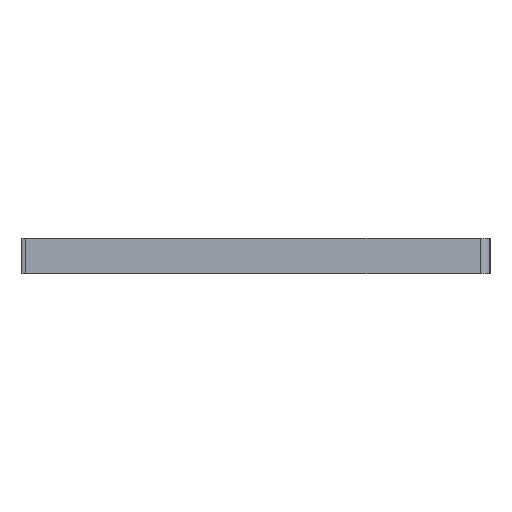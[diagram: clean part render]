
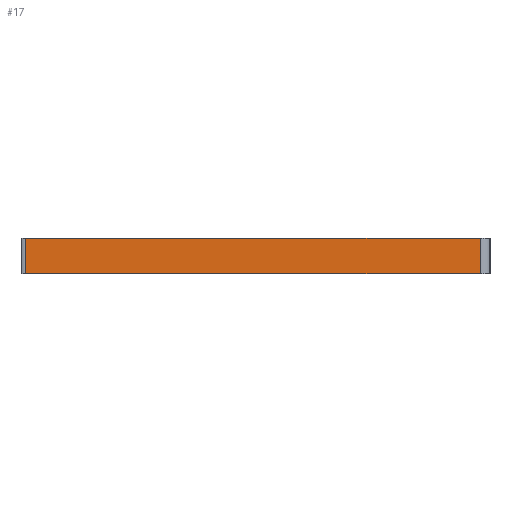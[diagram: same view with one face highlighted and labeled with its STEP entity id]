
A CAD part, left-side view. The second image highlights one B-rep face of the part: STEP entity #17.
In plain terms, the highlighted planar face has unit normal (-1, 0, 0).
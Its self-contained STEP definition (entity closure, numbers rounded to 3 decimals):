
#17 = ADVANCED_FACE('',(#18),#32,.F.);
#18 = FACE_BOUND('',#19,.F.);
#19 = EDGE_LOOP('',(#20,#55,#83,#111));
#20 = ORIENTED_EDGE('',*,*,#21,.F.);
#21 = EDGE_CURVE('',#22,#24,#26,.T.);
#22 = VERTEX_POINT('',#23);
#23 = CARTESIAN_POINT('',(1.,1.75,4.25));
#24 = VERTEX_POINT('',#25);
#25 = CARTESIAN_POINT('',(1.,36.75,4.25));
#26 = SURFACE_CURVE('',#27,(#31,#43),.PCURVE_S1.);
#27 = LINE('',#28,#29);
#28 = CARTESIAN_POINT('',(1.,1.,4.25));
#29 = VECTOR('',#30,1.);
#30 = DIRECTION('',(0.,1.,0.));
#31 = PCURVE('',#32,#37);
#32 = PLANE('',#33);
#33 = AXIS2_PLACEMENT_3D('',#34,#35,#36);
#34 = CARTESIAN_POINT('',(1.,1.,1.55));
#35 = DIRECTION('',(1.,0.,0.));
#36 = DIRECTION('',(0.,0.,1.));
#37 = DEFINITIONAL_REPRESENTATION('',(#38),#42);
#38 = LINE('',#39,#40);
#39 = CARTESIAN_POINT('',(2.7,0.));
#40 = VECTOR('',#41,1.);
#41 = DIRECTION('',(0.,-1.));
#42 = ( GEOMETRIC_REPRESENTATION_CONTEXT(2) 
PARAMETRIC_REPRESENTATION_CONTEXT() REPRESENTATION_CONTEXT('2D SPACE',''
  ) );
#43 = PCURVE('',#44,#49);
#44 = PLANE('',#45);
#45 = AXIS2_PLACEMENT_3D('',#46,#47,#48);
#46 = CARTESIAN_POINT('',(1.,1.,4.25));
#47 = DIRECTION('',(0.,0.,1.));
#48 = DIRECTION('',(1.,0.,0.));
#49 = DEFINITIONAL_REPRESENTATION('',(#50),#54);
#50 = LINE('',#51,#52);
#51 = CARTESIAN_POINT('',(0.,0.));
#52 = VECTOR('',#53,1.);
#53 = DIRECTION('',(0.,1.));
#54 = ( GEOMETRIC_REPRESENTATION_CONTEXT(2) 
PARAMETRIC_REPRESENTATION_CONTEXT() REPRESENTATION_CONTEXT('2D SPACE',''
  ) );
#55 = ORIENTED_EDGE('',*,*,#56,.F.);
#56 = EDGE_CURVE('',#57,#22,#59,.T.);
#57 = VERTEX_POINT('',#58);
#58 = CARTESIAN_POINT('',(1.,1.75,1.55));
#59 = SURFACE_CURVE('',#60,(#64,#71),.PCURVE_S1.);
#60 = LINE('',#61,#62);
#61 = CARTESIAN_POINT('',(1.,1.75,1.55));
#62 = VECTOR('',#63,1.);
#63 = DIRECTION('',(0.,0.,1.));
#64 = PCURVE('',#32,#65);
#65 = DEFINITIONAL_REPRESENTATION('',(#66),#70);
#66 = LINE('',#67,#68);
#67 = CARTESIAN_POINT('',(0.,-0.75));
#68 = VECTOR('',#69,1.);
#69 = DIRECTION('',(1.,0.));
#70 = ( GEOMETRIC_REPRESENTATION_CONTEXT(2) 
PARAMETRIC_REPRESENTATION_CONTEXT() REPRESENTATION_CONTEXT('2D SPACE',''
  ) );
#71 = PCURVE('',#72,#77);
#72 = CYLINDRICAL_SURFACE('',#73,0.75);
#73 = AXIS2_PLACEMENT_3D('',#74,#75,#76);
#74 = CARTESIAN_POINT('',(1.75,1.75,1.55));
#75 = DIRECTION('',(0.,0.,1.));
#76 = DIRECTION('',(-1.,-0.,0.));
#77 = DEFINITIONAL_REPRESENTATION('',(#78),#82);
#78 = LINE('',#79,#80);
#79 = CARTESIAN_POINT('',(0.,0.));
#80 = VECTOR('',#81,1.);
#81 = DIRECTION('',(0.,1.));
#82 = ( GEOMETRIC_REPRESENTATION_CONTEXT(2) 
PARAMETRIC_REPRESENTATION_CONTEXT() REPRESENTATION_CONTEXT('2D SPACE',''
  ) );
#83 = ORIENTED_EDGE('',*,*,#84,.T.);
#84 = EDGE_CURVE('',#57,#85,#87,.T.);
#85 = VERTEX_POINT('',#86);
#86 = CARTESIAN_POINT('',(1.,36.75,1.55));
#87 = SURFACE_CURVE('',#88,(#92,#99),.PCURVE_S1.);
#88 = LINE('',#89,#90);
#89 = CARTESIAN_POINT('',(1.,1.,1.55));
#90 = VECTOR('',#91,1.);
#91 = DIRECTION('',(0.,1.,0.));
#92 = PCURVE('',#32,#93);
#93 = DEFINITIONAL_REPRESENTATION('',(#94),#98);
#94 = LINE('',#95,#96);
#95 = CARTESIAN_POINT('',(0.,0.));
#96 = VECTOR('',#97,1.);
#97 = DIRECTION('',(0.,-1.));
#98 = ( GEOMETRIC_REPRESENTATION_CONTEXT(2) 
PARAMETRIC_REPRESENTATION_CONTEXT() REPRESENTATION_CONTEXT('2D SPACE',''
  ) );
#99 = PCURVE('',#100,#105);
#100 = PLANE('',#101);
#101 = AXIS2_PLACEMENT_3D('',#102,#103,#104);
#102 = CARTESIAN_POINT('',(1.,1.,1.55));
#103 = DIRECTION('',(0.,0.,1.));
#104 = DIRECTION('',(1.,0.,0.));
#105 = DEFINITIONAL_REPRESENTATION('',(#106),#110);
#106 = LINE('',#107,#108);
#107 = CARTESIAN_POINT('',(0.,0.));
#108 = VECTOR('',#109,1.);
#109 = DIRECTION('',(0.,1.));
#110 = ( GEOMETRIC_REPRESENTATION_CONTEXT(2) 
PARAMETRIC_REPRESENTATION_CONTEXT() REPRESENTATION_CONTEXT('2D SPACE',''
  ) );
#111 = ORIENTED_EDGE('',*,*,#112,.T.);
#112 = EDGE_CURVE('',#85,#24,#113,.T.);
#113 = SURFACE_CURVE('',#114,(#118,#125),.PCURVE_S1.);
#114 = LINE('',#115,#116);
#115 = CARTESIAN_POINT('',(1.,36.75,1.55));
#116 = VECTOR('',#117,1.);
#117 = DIRECTION('',(0.,0.,1.));
#118 = PCURVE('',#32,#119);
#119 = DEFINITIONAL_REPRESENTATION('',(#120),#124);
#120 = LINE('',#121,#122);
#121 = CARTESIAN_POINT('',(0.,-35.75));
#122 = VECTOR('',#123,1.);
#123 = DIRECTION('',(1.,0.));
#124 = ( GEOMETRIC_REPRESENTATION_CONTEXT(2) 
PARAMETRIC_REPRESENTATION_CONTEXT() REPRESENTATION_CONTEXT('2D SPACE',''
  ) );
#125 = PCURVE('',#126,#131);
#126 = CYLINDRICAL_SURFACE('',#127,0.75);
#127 = AXIS2_PLACEMENT_3D('',#128,#129,#130);
#128 = CARTESIAN_POINT('',(1.75,36.75,1.55));
#129 = DIRECTION('',(0.,0.,1.));
#130 = DIRECTION('',(-1.,-0.,0.));
#131 = DEFINITIONAL_REPRESENTATION('',(#132),#136);
#132 = LINE('',#133,#134);
#133 = CARTESIAN_POINT('',(-0.,0.));
#134 = VECTOR('',#135,1.);
#135 = DIRECTION('',(-0.,1.));
#136 = ( GEOMETRIC_REPRESENTATION_CONTEXT(2) 
PARAMETRIC_REPRESENTATION_CONTEXT() REPRESENTATION_CONTEXT('2D SPACE',''
  ) );
